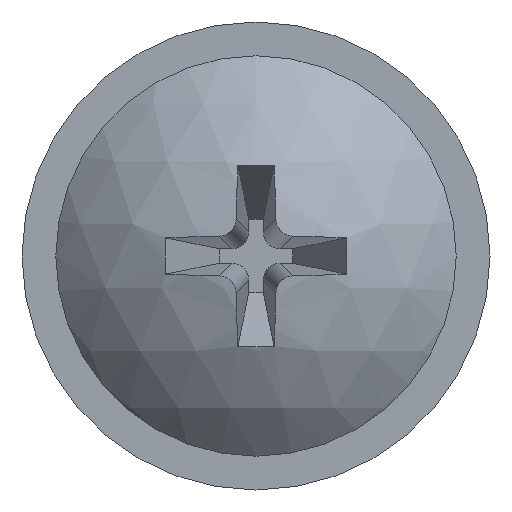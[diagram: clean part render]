
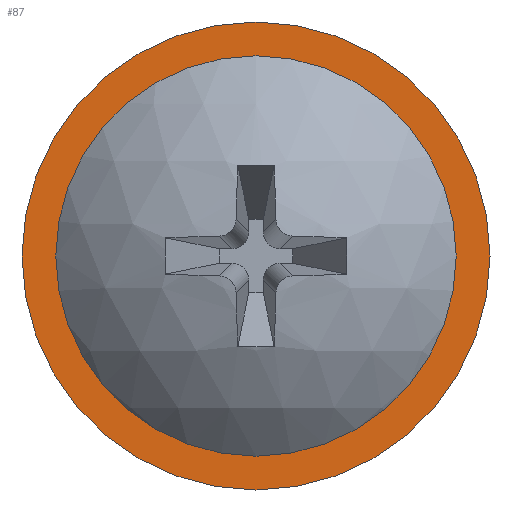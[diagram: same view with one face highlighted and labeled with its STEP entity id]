
A CAD part, left-side view. The second image highlights one B-rep face of the part: STEP entity #87.
In plain terms, the highlighted planar face has unit normal (-1, 0, 0).
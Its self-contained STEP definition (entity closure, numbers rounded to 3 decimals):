
#66 = VERTEX_POINT ( 'NONE', #195 ) ;
#82 = EDGE_LOOP ( 'NONE', ( #723 ) ) ;
#86 = CARTESIAN_POINT ( 'NONE',  ( -1.35, 5.75, 0. ) ) ;
#87 = ADVANCED_FACE ( 'NONE', ( #277, #323 ), #210, .F. ) ;
#145 = AXIS2_PLACEMENT_3D ( 'NONE', #86, #604, #386 ) ;
#159 = EDGE_CURVE ( 'NONE', #588, #588, #718, .T. ) ;
#163 = DIRECTION ( 'NONE',  ( 0., 0., 1. ) ) ;
#195 = CARTESIAN_POINT ( 'NONE',  ( -1.35, 0., 4.919 ) ) ;
#210 = PLANE ( 'NONE',  #145 ) ;
#217 = CIRCLE ( 'NONE', #341, 4.919 ) ;
#239 = ORIENTED_EDGE ( 'NONE', *, *, #159, .T. ) ;
#277 = FACE_BOUND ( 'NONE', #82, .T. ) ;
#323 = FACE_OUTER_BOUND ( 'NONE', #724, .T. ) ;
#341 = AXIS2_PLACEMENT_3D ( 'NONE', #554, #732, #662 ) ;
#386 = DIRECTION ( 'NONE',  ( 0., 0., -1. ) ) ;
#390 = AXIS2_PLACEMENT_3D ( 'NONE', #468, #521, #163 ) ;
#468 = CARTESIAN_POINT ( 'NONE',  ( -1.35, 0., 0. ) ) ;
#519 = EDGE_CURVE ( 'NONE', #66, #66, #217, .T. ) ;
#521 = DIRECTION ( 'NONE',  ( -1., 0., 0. ) ) ;
#554 = CARTESIAN_POINT ( 'NONE',  ( -1.35, 0., 0. ) ) ;
#588 = VERTEX_POINT ( 'NONE', #650 ) ;
#604 = DIRECTION ( 'NONE',  ( 1., 0., 0. ) ) ;
#650 = CARTESIAN_POINT ( 'NONE',  ( -1.35, 0., 5.75 ) ) ;
#662 = DIRECTION ( 'NONE',  ( 0., 0., 1. ) ) ;
#718 = CIRCLE ( 'NONE', #390, 5.75 ) ;
#723 = ORIENTED_EDGE ( 'NONE', *, *, #519, .F. ) ;
#724 = EDGE_LOOP ( 'NONE', ( #239 ) ) ;
#732 = DIRECTION ( 'NONE',  ( -1., 0., 0. ) ) ;
